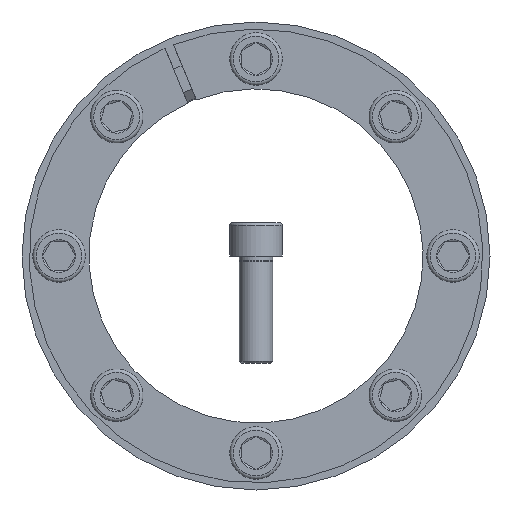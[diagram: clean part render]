
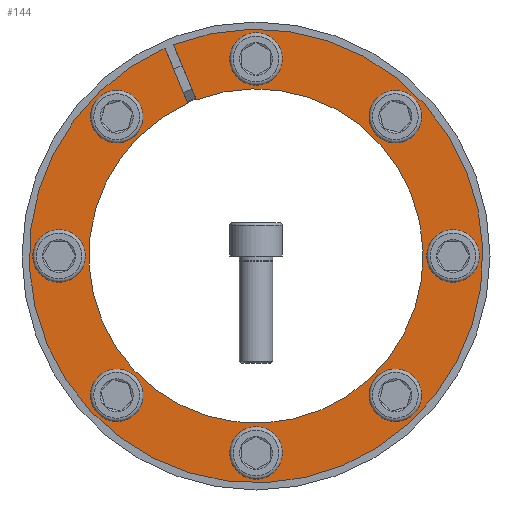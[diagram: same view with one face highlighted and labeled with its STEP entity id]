
A CAD part, front view. The second image highlights one B-rep face of the part: STEP entity #144.
In plain terms, the highlighted planar face has unit normal (0, -1, 0).
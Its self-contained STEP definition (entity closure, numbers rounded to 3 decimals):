
#144 = ADVANCED_FACE( '', ( #319, #320, #321, #322, #323, #324, #325, #326, #327 ), #328, .T. );
#319 = FACE_BOUND( '', #515, .T. );
#320 = FACE_BOUND( '', #516, .T. );
#321 = FACE_BOUND( '', #517, .T. );
#322 = FACE_BOUND( '', #518, .T. );
#323 = FACE_BOUND( '', #519, .T. );
#324 = FACE_BOUND( '', #520, .T. );
#325 = FACE_BOUND( '', #521, .T. );
#326 = FACE_BOUND( '', #522, .T. );
#327 = FACE_OUTER_BOUND( '', #523, .T. );
#328 = PLANE( '', #524 );
#515 = EDGE_LOOP( '', ( #894 ) );
#516 = EDGE_LOOP( '', ( #895 ) );
#517 = EDGE_LOOP( '', ( #896 ) );
#518 = EDGE_LOOP( '', ( #897 ) );
#519 = EDGE_LOOP( '', ( #898 ) );
#520 = EDGE_LOOP( '', ( #899 ) );
#521 = EDGE_LOOP( '', ( #900 ) );
#522 = EDGE_LOOP( '', ( #901 ) );
#523 = EDGE_LOOP( '', ( #902, #903, #904, #905 ) );
#524 = AXIS2_PLACEMENT_3D( '', #906, #907, #908 );
#894 = ORIENTED_EDGE( '', *, *, #1092, .T. );
#895 = ORIENTED_EDGE( '', *, *, #1071, .T. );
#896 = ORIENTED_EDGE( '', *, *, #1125, .T. );
#897 = ORIENTED_EDGE( '', *, *, #1141, .T. );
#898 = ORIENTED_EDGE( '', *, *, #1153, .T. );
#899 = ORIENTED_EDGE( '', *, *, #1132, .T. );
#900 = ORIENTED_EDGE( '', *, *, #1149, .T. );
#901 = ORIENTED_EDGE( '', *, *, #1151, .T. );
#902 = ORIENTED_EDGE( '', *, *, #1137, .T. );
#903 = ORIENTED_EDGE( '', *, *, #1158, .F. );
#904 = ORIENTED_EDGE( '', *, *, #1159, .F. );
#905 = ORIENTED_EDGE( '', *, *, #1155, .T. );
#906 = CARTESIAN_POINT( '', ( 0., 0., 95. ) );
#907 = DIRECTION( '', ( 0., -1., 0. ) );
#908 = DIRECTION( '', ( 0., 0., -1. ) );
#1071 = EDGE_CURVE( '', #1307, #1307, #1308, .T. );
#1092 = EDGE_CURVE( '', #1334, #1334, #1335, .T. );
#1125 = EDGE_CURVE( '', #1384, #1384, #1385, .T. );
#1132 = EDGE_CURVE( '', #1394, #1394, #1395, .T. );
#1137 = EDGE_CURVE( '', #1403, #1401, #1404, .T. );
#1141 = EDGE_CURVE( '', #1408, #1408, #1409, .T. );
#1149 = EDGE_CURVE( '', #1418, #1418, #1419, .T. );
#1151 = EDGE_CURVE( '', #1421, #1421, #1422, .T. );
#1153 = EDGE_CURVE( '', #1424, #1424, #1425, .T. );
#1155 = EDGE_CURVE( '', #1427, #1403, #1428, .T. );
#1158 = EDGE_CURVE( '', #1431, #1401, #1432, .T. );
#1159 = EDGE_CURVE( '', #1427, #1431, #1433, .T. );
#1307 = VERTEX_POINT( '', #1685 );
#1308 = CIRCLE( '', #1686, 7. );
#1334 = VERTEX_POINT( '', #1714 );
#1335 = CIRCLE( '', #1715, 7. );
#1384 = VERTEX_POINT( '', #1780 );
#1385 = CIRCLE( '', #1781, 7. );
#1394 = VERTEX_POINT( '', #1793 );
#1395 = CIRCLE( '', #1794, 7. );
#1401 = VERTEX_POINT( '', #1800 );
#1403 = VERTEX_POINT( '', #1803 );
#1404 = CIRCLE( '', #1804, 95. );
#1408 = VERTEX_POINT( '', #1809 );
#1409 = CIRCLE( '', #1810, 7. );
#1418 = VERTEX_POINT( '', #1822 );
#1419 = CIRCLE( '', #1823, 7. );
#1421 = VERTEX_POINT( '', #1825 );
#1422 = CIRCLE( '', #1826, 7. );
#1424 = VERTEX_POINT( '', #1828 );
#1425 = CIRCLE( '', #1829, 7. );
#1427 = VERTEX_POINT( '', #1831 );
#1428 = LINE( '', #1832, #1833 );
#1431 = VERTEX_POINT( '', #1837 );
#1432 = LINE( '', #1838, #1839 );
#1433 = CIRCLE( '', #1840, 70. );
#1685 = CARTESIAN_POINT( '', ( -63.286, 0., -53.387 ) );
#1686 = AXIS2_PLACEMENT_3D( '', #1966, #1967, #1968 );
#1714 = CARTESIAN_POINT( '', ( -53.387, 0., 63.286 ) );
#1715 = AXIS2_PLACEMENT_3D( '', #2010, #2011, #2012 );
#1780 = CARTESIAN_POINT( '', ( 53.387, 0., -63.286 ) );
#1781 = AXIS2_PLACEMENT_3D( '', #2056, #2057, #2058 );
#1793 = CARTESIAN_POINT( '', ( 82.5, 0., -7. ) );
#1794 = AXIS2_PLACEMENT_3D( '', #2065, #2066, #2067 );
#1800 = CARTESIAN_POINT( '', ( -34.592, 0., 88.478 ) );
#1803 = CARTESIAN_POINT( '', ( -38.103, 0., 87.024 ) );
#1804 = AXIS2_PLACEMENT_3D( '', #2072, #2073, #2074 );
#1809 = CARTESIAN_POINT( '', ( 63.286, 0., 53.387 ) );
#1810 = AXIS2_PLACEMENT_3D( '', #2076, #2077, #2078 );
#1822 = CARTESIAN_POINT( '', ( -7., 0., -82.5 ) );
#1823 = AXIS2_PLACEMENT_3D( '', #2085, #2086, #2087 );
#1825 = CARTESIAN_POINT( '', ( -82.5, 0., 7. ) );
#1826 = AXIS2_PLACEMENT_3D( '', #2088, #2089, #2090 );
#1828 = CARTESIAN_POINT( '', ( 7., 0., 82.5 ) );
#1829 = AXIS2_PLACEMENT_3D( '', #2091, #2092, #2093 );
#1831 = CARTESIAN_POINT( '', ( -28.533, 0., 63.921 ) );
#1832 = CARTESIAN_POINT( '', ( -1.755, 0., -0.727 ) );
#1833 = VECTOR( '', #2094, 1000. );
#1837 = CARTESIAN_POINT( '', ( -25.023, 0., 65.375 ) );
#1838 = CARTESIAN_POINT( '', ( 1.755, 0., 0.727 ) );
#1839 = VECTOR( '', #2096, 1000. );
#1840 = AXIS2_PLACEMENT_3D( '', #2097, #2098, #2099 );
#1966 = CARTESIAN_POINT( '', ( -58.336, 0., -58.336 ) );
#1967 = DIRECTION( '', ( 0., 1., 0. ) );
#1968 = DIRECTION( '', ( -0.707, 0., 0.707 ) );
#2010 = CARTESIAN_POINT( '', ( -58.336, 0., 58.336 ) );
#2011 = DIRECTION( '', ( 0., 1., 0. ) );
#2012 = DIRECTION( '', ( 0.707, 0., 0.707 ) );
#2056 = CARTESIAN_POINT( '', ( 58.336, 0., -58.336 ) );
#2057 = DIRECTION( '', ( 0., 1., 0. ) );
#2058 = DIRECTION( '', ( -0.707, 0., -0.707 ) );
#2065 = CARTESIAN_POINT( '', ( 82.5, 0., 0. ) );
#2066 = DIRECTION( '', ( 0., 1., 0. ) );
#2067 = DIRECTION( '', ( 0., 0., -1. ) );
#2072 = CARTESIAN_POINT( '', ( 0., 0., 0. ) );
#2073 = DIRECTION( '', ( 0., -1., 0. ) );
#2074 = DIRECTION( '', ( 0., 0., -1. ) );
#2076 = CARTESIAN_POINT( '', ( 58.336, 0., 58.336 ) );
#2077 = DIRECTION( '', ( 0., 1., 0. ) );
#2078 = DIRECTION( '', ( 0.707, 0., -0.707 ) );
#2085 = CARTESIAN_POINT( '', ( 0., 0., -82.5 ) );
#2086 = DIRECTION( '', ( 0., 1., 0. ) );
#2087 = DIRECTION( '', ( -1., 0., 0. ) );
#2088 = CARTESIAN_POINT( '', ( -82.5, 0., 0. ) );
#2089 = DIRECTION( '', ( 0., 1., 0. ) );
#2090 = DIRECTION( '', ( 0., 0., 1. ) );
#2091 = CARTESIAN_POINT( '', ( 0., 0., 82.5 ) );
#2092 = DIRECTION( '', ( 0., 1., 0. ) );
#2093 = DIRECTION( '', ( 1., 0., 0. ) );
#2094 = DIRECTION( '', ( -0.383, 0., 0.924 ) );
#2096 = DIRECTION( '', ( -0.383, 0., 0.924 ) );
#2097 = CARTESIAN_POINT( '', ( 0., 0., 0. ) );
#2098 = DIRECTION( '', ( 0., -1., 0. ) );
#2099 = DIRECTION( '', ( 0., 0., -1. ) );
